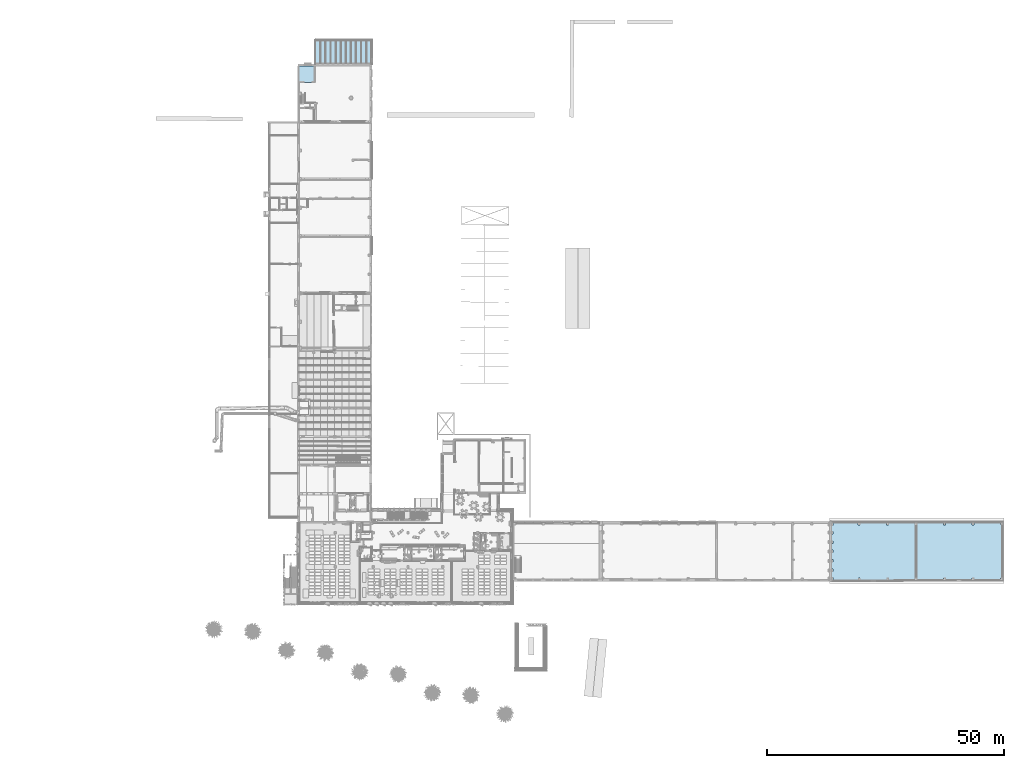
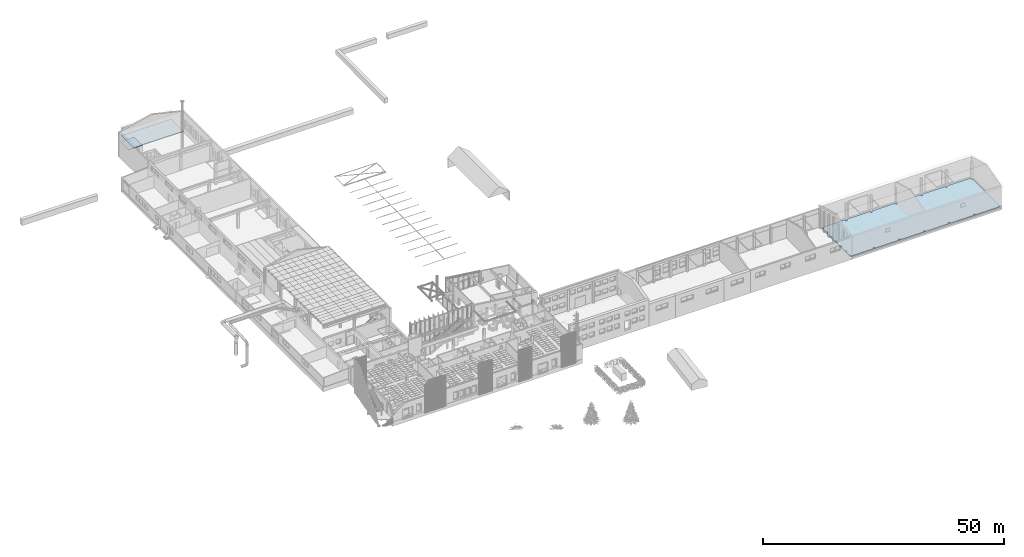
# One storey, part 82 of 301: 3 slabs.
"""IFC2X3 building model written with IfcOpenShell, lengths in millimetres."""

from ifc_helpers import new_model, entity, si_unit, converted_unit, derived_unit, money_unit, direction, frame, origin_with_axes, place, context, subcontext, project, spatial, faceted_brep, material, type_object, element, save


model = new_model("IFC2X3")

# Units and contexts
model_context = context("Model", 3, precision=0.01, world=origin_with_axes(), true_north=direction((0.0, 1.0)))
body_context = subcontext(model_context, "Body", "Model", "MODEL_VIEW")
ifc_project = project(units=[si_unit("LENGTHUNIT", "METRE", prefix="MILLI"), si_unit("AREAUNIT", "SQUARE_METRE"), si_unit("VOLUMEUNIT", "CUBIC_METRE"), converted_unit("PLANEANGLEUNIT", "DEGREE", entity("IfcPlaneAngleMeasure", 0.0174532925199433), si_unit("PLANEANGLEUNIT", "RADIAN"), dimensions=[0, 0, 0, 0, 0, 0, 0]), money_unit("EUR"), converted_unit("TIMEUNIT", "Year", entity("IfcTimeMeasure", 31557600.0), si_unit("TIMEUNIT", "SECOND"), dimensions=[0, 0, 1, 0, 0, 0, 0]), si_unit("MASSUNIT", "GRAM", prefix="KILO"), si_unit("THERMODYNAMICTEMPERATUREUNIT", "DEGREE_CELSIUS"), si_unit("LUMINOUSINTENSITYUNIT", "LUMEN"), si_unit("ENERGYUNIT", "JOULE", prefix="MEGA"), derived_unit("THERMALCONDUCTANCEUNIT", [(si_unit("POWERUNIT", "WATT"), 1), (si_unit("LENGTHUNIT", "METRE"), -1), (si_unit("THERMODYNAMICTEMPERATUREUNIT", "KELVIN"), -1)]), derived_unit("SPECIFICHEATCAPACITYUNIT", [(si_unit("ENERGYUNIT", "JOULE"), 1), (si_unit("MASSUNIT", "GRAM", prefix="KILO"), -1), (si_unit("THERMODYNAMICTEMPERATUREUNIT", "KELVIN"), -1)]), derived_unit("MASSDENSITYUNIT", [(si_unit("MASSUNIT", "GRAM", prefix="KILO"), 1), (si_unit("VOLUMEUNIT", "CUBIC_METRE"), -1)])], contexts=[model_context])

# Site, building, storey
site_placement = place(None, frame((0.0, 0.0, 8650.0), z_axis=(0.0, 0.0, 1.0), x_axis=(1.0, 0.0, 0.0)))
site = spatial("IfcSite", under=ifc_project, at=site_placement, Name="43301:001:0844", CompositionType="ELEMENT")
building_placement = place(site_placement, origin_with_axes())
building = spatial("IfcBuilding", under=site, at=building_placement, Name="Kuressaare Ametikooli tuulikute mehaanikute õppekorpus", CompositionType="ELEMENT")
storey_placement = place(building_placement, origin_with_axes())
storey = spatial("IfcBuildingStorey", under=building, at=storey_placement, Name="1.korrus", CompositionType="ELEMENT", Elevation=0.0)

# Slabs
ifc_material = material(Name="GENEERILINE - KONSTRUKTRIOON")
slab_type_1 = type_object("IfcSlabType", Name="GENEERILINE - KONSTRUKTRIOON 200", PredefinedType="NOTDEFINED")
slab_1_placement = place(storey_placement, frame((200683.6203002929, 25790.26826269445, -330.0), z_axis=(0.0, 0.0, 1.0), x_axis=(1.0, 0.0, 0.0)))
element("IfcSlab", 1, at=slab_1_placement, inside=storey, type_object=slab_type_1, material=ifc_material, PredefinedType="NOTDEFINED", context=body_context, shape_type="Brep", body=[
    faceted_brep([(270.0016216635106, -1713.211422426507, 0.0), (270.0017052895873, -2243.211424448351, 0.0), (8.382204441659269e-05, -2243.211467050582, 0.0), (3.138040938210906e-07, -3713.213523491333, 0.0), (270.000296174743, -3713.21348094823, 0.0), (270.0003796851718, -4243.213482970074, 0.0), (8.382423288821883e-05, -4243.213525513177, 0.0), (5.446167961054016e-07, -5693.215684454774, 0.0), (270.0000176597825, -5693.215642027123, 0.0), (270.0001025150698, -6233.215643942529, 0.0), (8.5399904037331e-05, -6233.215686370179, 0.0), (0.0, -7703.163827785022, 0.0), (270.0000171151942, -7703.163827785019, 0.0), (270.0000171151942, -8243.163829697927, 0.0), (0.0, -8243.16382969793, 0.0), (0.0, -9713.188007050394, 0.0), (270.000001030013, -9713.188007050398, 0.0), (270.000001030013, -10253.18800911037, 0.0), (0.0, -10253.18800911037, 0.0), (-3.299760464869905e-07, -11463.00645569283, 0.0), (270.1789829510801, -11463.00650949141, 0.0), (270.1788775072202, -11992.55040198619, 0.0), (35992.46307373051, -11957.72726803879, 0.0), (35992.46307373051, -11957.61028850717, 0.0), (35712.46307373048, -11957.61028850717, 0.0), (35712.46307373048, -11557.61028850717, 0.0), (35992.46307373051, -11557.61028850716, 0.0), (35992.46307373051, -328.6098741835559, 0.0), (35712.46300291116, -328.6098741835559, 0.0), (35712.46300291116, 71.39019663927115, 0.0), (35992.46307373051, 71.39019663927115, 0.0), (35992.46307373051, 79.66522819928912, 0.0), (271.2348928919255, 52.2935295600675, 0.0), (206.0279463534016, 39.72176436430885, 0.0), (271.2348928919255, 39.72176436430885, 0.0), (271.2348928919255, -499.7100350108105, 0.0), (0.0, -499.7100350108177, 0.0), (1.959392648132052e-07, -1713.211465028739, 0.0), (18056.66769294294, -353.2797773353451, 0.0), (17656.66769294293, -353.2797773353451, 0.0), (17656.66769294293, 46.72022266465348, 0.0), (18056.66769294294, 46.72022266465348, 0.0), (30076.79202885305, -343.609803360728, 0.0), (29676.79202885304, -343.609803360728, 0.0), (29676.79202885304, 56.39019663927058, 0.0), (30076.79202885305, 56.39019663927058, 0.0), (24056.7720402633, -342.6102885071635, 0.0), (23656.77204026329, -342.6102885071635, 0.0), (23656.77204026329, 57.389711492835, 0.0), (24056.7720402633, 57.389711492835, 0.0), (12036.77204026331, -362.6102885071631, 0.0), (11636.77204026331, -362.6102885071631, 0.0), (11636.77204026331, 37.38971149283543, 0.0), (12036.77204026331, 37.38971149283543, 0.0), (6001.77204026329, -377.6102885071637, 0.0), (5601.772040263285, -377.6102885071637, 0.0), (5601.772040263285, 22.38971149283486, 0.0), (6001.77204026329, 22.38971149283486, 0.0), (30101.77204026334, -11947.61028850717, 0.0), (29701.77204026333, -11947.61028850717, 0.0), (29701.77204026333, -11547.61028850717, 0.0), (30101.77204026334, -11547.61028850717, 0.0), (24081.77204026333, -11947.61028850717, 0.0), (23681.77204026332, -11947.61028850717, 0.0), (23681.77204026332, -11547.61028850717, 0.0), (24081.77204026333, -11547.61028850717, 0.0), (18061.77204026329, -11947.61028850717, 0.0), (17661.77204026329, -11947.61028850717, 0.0), (17661.77204026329, -11547.61028850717, 0.0), (18061.77204026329, -11547.61028850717, 0.0), (12056.7720402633, -11962.61028850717, 0.0), (11656.77204026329, -11962.61028850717, 0.0), (11656.77204026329, -11562.61028850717, 0.0), (12056.7720402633, -11562.61028850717, 0.0), (6031.772040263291, -11977.61028850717, 0.0), (5631.772040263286, -11977.61028850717, 0.0), (5631.772040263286, -11577.61028850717, 0.0), (6031.772040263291, -11577.61028850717, 0.0), (270.0017052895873, -2243.211424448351, -120.0000000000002), (270.0016216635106, -1713.211422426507, -120.0000000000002), (8.382204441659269e-05, -2243.211467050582, -120.0000000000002), (1.959392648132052e-07, -1713.211465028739, -120.0000000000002), (0.0, -499.7100350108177, -120.0000000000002), (0.0, 0.0, -120.0000000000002), (0.0, 0.0, -200.0000000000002), (4.229332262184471e-05, -11992.81378026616, -200.0000000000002), (-0.0001058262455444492, -11992.81378026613, -120.0000000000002), (-3.299760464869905e-07, -11463.00645569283, -120.0000000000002), (0.0, -10253.18800911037, -120.0000000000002), (0.0, -9713.188007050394, -120.0000000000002), (0.0, -8243.16382969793, -120.0000000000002), (0.0, -7703.163827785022, -120.0000000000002), (8.5399904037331e-05, -6233.215686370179, -120.0000000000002), (5.446167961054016e-07, -5693.215684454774, -120.0000000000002), (8.382423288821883e-05, -4243.213525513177, -120.0000000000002), (3.138040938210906e-07, -3713.213523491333, -120.0000000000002), (270.000296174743, -3713.21348094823, -120.0000000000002), (270.0003796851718, -4243.213482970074, -120.0000000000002), (270.0000176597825, -5693.215642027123, -120.0000000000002), (270.0001025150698, -6233.215643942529, -120.0000000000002), (270.0000171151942, -7703.163827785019, -120.0000000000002), (270.0000171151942, -8243.163829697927, -120.0000000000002), (270.000001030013, -9713.188007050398, -120.0000000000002), (270.000001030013, -10253.18800911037, -120.0000000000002), (270.1789829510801, -11463.00650949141, -120.0000000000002), (270.1788775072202, -11992.55040198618, -120.0000000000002), (35992.46307373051, -11957.72726803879, -200.0000000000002), (35992.46303130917, 71.39019663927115, -120.0000000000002), (35992.46303271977, -328.6098741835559, -120.0000000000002), (35992.46307231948, -11557.61028850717, -120.0000000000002), (35992.4630737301, -11957.61028850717, -120.0000000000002), (35992.46307373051, 79.66522819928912, -200.0000000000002), (35712.46307373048, -11957.61028850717, -120.0000000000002), (35712.46307373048, -11557.61028850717, -120.0000000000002), (35712.46300291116, -328.6098741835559, -120.0000000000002), (35712.46300291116, 71.39019663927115, -120.0000000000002), (271.2348928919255, 52.2935295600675, -200.0000000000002), (206.0279463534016, 39.72176436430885, -120.0000000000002), (271.2348928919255, 39.72176436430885, -120.0000000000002), (271.2348928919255, -499.7100350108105, -120.0000000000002), (17656.66769294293, -353.2797773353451, -120.0000000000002), (18056.66769294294, -353.2797773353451, -120.0000000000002), (17656.66769294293, 46.72022266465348, -120.0000000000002), (18056.66769294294, 46.72022266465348, -120.0000000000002), (29676.79202885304, -343.609803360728, -120.0000000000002), (30076.79202885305, -343.609803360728, -120.0000000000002), (29676.79202885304, 56.39019663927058, -120.0000000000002), (30076.79202885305, 56.39019663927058, -120.0000000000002), (23656.77204026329, -342.6102885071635, -120.0000000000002), (24056.7720402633, -342.6102885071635, -120.0000000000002), (23656.77204026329, 57.389711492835, -120.0000000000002), (24056.7720402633, 57.389711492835, -120.0000000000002), (11636.77204026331, -362.6102885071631, -120.0000000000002), (12036.77204026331, -362.6102885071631, -120.0000000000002), (11636.77204026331, 37.38971149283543, -120.0000000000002), (12036.77204026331, 37.38971149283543, -120.0000000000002), (5601.772040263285, -377.6102885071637, -120.0000000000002), (6001.77204026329, -377.6102885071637, -120.0000000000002), (5601.772040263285, 22.38971149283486, -120.0000000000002), (6001.77204026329, 22.38971149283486, -120.0000000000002), (29701.77204026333, -11947.61028850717, -120.0000000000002), (30101.77204026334, -11947.61028850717, -120.0000000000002), (29701.77204026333, -11547.61028850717, -120.0000000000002), (30101.77204026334, -11547.61028850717, -120.0000000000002), (23681.77204026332, -11947.61028850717, -120.0000000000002), (24081.77204026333, -11947.61028850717, -120.0000000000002), (23681.77204026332, -11547.61028850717, -120.0000000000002), (24081.77204026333, -11547.61028850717, -120.0000000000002), (17661.77204026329, -11947.61028850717, -120.0000000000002), (18061.77204026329, -11947.61028850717, -120.0000000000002), (17661.77204026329, -11547.61028850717, -120.0000000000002), (18061.77204026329, -11547.61028850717, -120.0000000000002), (11656.77204026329, -11962.61028850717, -120.0000000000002), (12056.7720402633, -11962.61028850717, -120.0000000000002), (11656.77204026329, -11562.61028850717, -120.0000000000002), (12056.7720402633, -11562.61028850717, -120.0000000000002), (5631.772040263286, -11977.61028850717, -120.0000000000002), (6031.772040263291, -11977.61028850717, -120.0000000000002), (5631.772040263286, -11577.61028850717, -120.0000000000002), (6031.772040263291, -11577.61028850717, -120.0000000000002)], [[[0, 1, 2, 3, 4, 5, 6, 7, 8, 9, 10, 11, 12, 13, 14, 15, 16, 17, 18, 19, 20, 21, 22, 23, 24, 25, 26, 27, 28, 29, 30, 31, 32, 33, 34, 35, 36, 37], [38, 39, 40, 41], [42, 43, 44, 45], [46, 47, 48, 49], [50, 51, 52, 53], [54, 55, 56, 57], [58, 59, 60, 61], [62, 63, 64, 65], [66, 67, 68, 69], [70, 71, 72, 73], [74, 75, 76, 77]], [[78, 1, 0, 79]], [[80, 2, 1, 78]], [[80, 81, 37, 36, 82, 83, 84, 85, 86, 87, 19, 18, 88, 89, 15, 14, 90, 91, 11, 10, 92, 93, 7, 6, 94, 95, 3, 2]], [[96, 4, 3, 95]], [[97, 5, 4, 96]], [[94, 6, 5, 97]], [[98, 8, 7, 93]], [[99, 9, 8, 98]], [[92, 10, 9, 99]], [[100, 12, 11, 91]], [[101, 13, 12, 100]], [[90, 14, 13, 101]], [[102, 16, 15, 89]], [[103, 17, 16, 102]], [[88, 18, 17, 103]], [[104, 20, 19, 87]], [[105, 21, 20, 104]], [[21, 105, 86, 85, 106, 22]], [[107, 108, 27, 26, 109, 110, 23, 22, 106, 111, 31, 30]], [[112, 24, 23, 110]], [[113, 25, 24, 112]], [[113, 109, 26, 25]], [[114, 28, 27, 108]], [[115, 29, 28, 114]], [[115, 107, 30, 29]], [[32, 31, 111, 116]], [[83, 117, 33, 32, 116, 84]], [[118, 34, 33, 117]], [[119, 35, 34, 118]], [[82, 36, 35, 119]], [[79, 0, 37, 81]], [[120, 39, 38, 121]], [[122, 40, 39, 120]], [[123, 41, 40, 122]], [[121, 38, 41, 123]], [[124, 43, 42, 125]], [[126, 44, 43, 124]], [[127, 45, 44, 126]], [[125, 42, 45, 127]], [[128, 47, 46, 129]], [[130, 48, 47, 128]], [[131, 49, 48, 130]], [[129, 46, 49, 131]], [[132, 51, 50, 133]], [[134, 52, 51, 132]], [[135, 53, 52, 134]], [[133, 50, 53, 135]], [[136, 55, 54, 137]], [[138, 56, 55, 136]], [[139, 57, 56, 138]], [[137, 54, 57, 139]], [[140, 59, 58, 141]], [[142, 60, 59, 140]], [[143, 61, 60, 142]], [[141, 58, 61, 143]], [[144, 63, 62, 145]], [[146, 64, 63, 144]], [[147, 65, 64, 146]], [[145, 62, 65, 147]], [[148, 67, 66, 149]], [[150, 68, 67, 148]], [[151, 69, 68, 150]], [[149, 66, 69, 151]], [[152, 71, 70, 153]], [[154, 72, 71, 152]], [[155, 73, 72, 154]], [[153, 70, 73, 155]], [[156, 75, 74, 157]], [[158, 76, 75, 156]], [[159, 77, 76, 158]], [[157, 74, 77, 159]], [[79, 81, 80, 78]], [[118, 117, 83, 82, 119]], [[106, 85, 84, 116, 111]], [[87, 86, 105, 104]], [[102, 89, 88, 103]], [[100, 91, 90, 101]], [[98, 93, 92, 99]], [[96, 95, 94, 97]], [[114, 108, 107, 115]], [[112, 110, 109, 113]], [[121, 123, 122, 120]], [[125, 127, 126, 124]], [[129, 131, 130, 128]], [[133, 135, 134, 132]], [[137, 139, 138, 136]], [[141, 143, 142, 140]], [[145, 147, 146, 144]], [[149, 151, 150, 148]], [[153, 155, 154, 152]], [[157, 159, 158, 156]]]),
])
slab_2_placement = place(storey_placement, frame((91658.74448396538, 122742.6289572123, -630.0000000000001), z_axis=(0.0, 0.0, 1.0), x_axis=(1.0, 0.0, 0.0)))
element("IfcSlab", 2, at=slab_2_placement, inside=storey, type_object=slab_type_1, material=ifc_material, PredefinedType="NOTDEFINED", context=body_context, shape_type="Brep", body=[
    faceted_brep([(0.0, 0.0, 0.0), (0.0, 0.0, -199.9999999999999), (11928.76772306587, -3.30619850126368, -199.9999999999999), (11928.76772306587, -3.30619850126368, 0.0), (0.0, 5039.495981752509, 0.0), (0.0, 5039.495981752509, -199.9999999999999), (11928.76772306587, 5039.495981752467, -199.9999999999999), (11928.76772306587, 5039.495981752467, 0.0)], [[[0, 1, 2, 3]], [[4, 5, 1, 0]], [[2, 1, 5, 6]], [[3, 2, 6, 7]], [[4, 0, 3, 7]], [[7, 6, 5, 4]]]),
])
slab_type_2 = type_object("IfcSlabType", Name="GENEERILINE - KONSTRUKTRIOON 175", PredefinedType="NOTDEFINED")
slab_3_placement = place(storey_placement, frame((91571.70661080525, 122332.6530650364, 2360.0), z_axis=(0.0, 0.0, 1.0), x_axis=(1.0, 0.0, 0.0)))
element("IfcSlab", 3, at=slab_3_placement, inside=storey, type_object=slab_type_2, material=ifc_material, PredefinedType="NOTDEFINED", context=body_context, shape_type="Brep", body=[
    faceted_brep([(0.0, 0.0, 0.0), (0.0, 0.0, -174.9999999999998), (-3352.871850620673, 0.9292879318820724, -174.9999999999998), (-3352.871850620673, 0.9292879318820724, 0.0), (0.0, -3408.375393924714, 0.0), (0.0, -3408.375393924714, -174.9999999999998), (-3352.897951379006, -3408.375393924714, -174.9999999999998), (-3352.897951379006, -3408.375393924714, 0.0)], [[[0, 1, 2, 3]], [[4, 5, 1, 0]], [[2, 1, 5, 6]], [[3, 2, 6, 7]], [[4, 0, 3, 7]], [[7, 6, 5, 4]]]),
])

save(model, "model.ifc")
